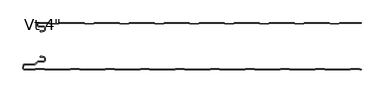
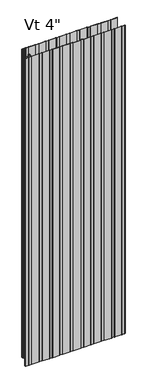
"""IFC4 building model written with IfcOpenShell, lengths in millimetres: plate geometry."""

from ifc_helpers import new_model, si_unit, point, frame, frame_2d, origin, origin_with_axes, place, context, project, spatial, polyline, circle_curve, trimmed, segment, composite_curve, outline, extrude, source, transform, mapped, element, save
from ifc_brep_helpers import plane_surface, cylinder_surface, revolved_surface, advanced_brep


def plate_0aca0093(model_context):
    return source(origin(), model_context, "Body", "SolidModel", [
        advanced_brep(
        [(-346.968691, -17.0015202, 2400.0), (-347.9686883, -18.0015234, 2400.0), (-346.968691, -19.0015147, 2400.0), (-342.9684874, -19.0015147, 2400.0), (-342.9684874, -18.0015202, 2400.0), (-340.2762776, -18.0015202, 2400.0), (-336.9762819, -14.7015245, 2400.0), (-336.9762819, -10.3015333, 2400.0), (-340.2762774, -7.0015378, 2400.0), (-350.6962563, -7.0015378, 2400.0), (-352.4662505, -5.2315436, 2400.0), (-352.4662505, -0.9999959, 2400.0), (-327.9659738, -0.9999959, 2400.0), (-326.5803312, -2.200235, 2400.0), (-307.2051649, -2.200235, 2400.0), (-305.819532, -1.0000043, 2400.0), (-251.7661166, -1.0000043, 2400.0), (-250.3804836, -2.200235, 2400.0), (-231.0053173, -2.200235, 2400.0), (-229.6196844, -1.0000043, 2400.0), (-175.566269, -1.0000043, 2400.0), (-174.180636, -2.200235, 2400.0), (-154.8054697, -2.200235, 2400.0), (-153.4198368, -1.0000043, 2400.0), (-99.3664214, -1.0000043, 2400.0), (-97.9807884, -2.200235, 2400.0), (-78.6056221, -2.200235, 2400.0), (-77.2199892, -1.0000043, 2400.0), (-23.1665738, -1.0000043, 2400.0), (-21.7809408, -2.200235, 2400.0), (-2.4057745, -2.200235, 2400.0), (-1.0201416, -1.0000043, 2400.0), (53.0332738, -1.0000043, 2400.0), (54.4189068, -2.200235, 2400.0), (73.7940731, -2.200235, 2400.0), (75.179706, -1.0000043, 2400.0), (129.2331214, -1.0000043, 2400.0), (130.6187544, -2.200235, 2400.0), (149.9939207, -2.200235, 2400.0), (151.3795536, -1.0000043, 2400.0), (205.432969, -1.0000043, 2400.0), (206.818602, -2.200235, 2400.0), (226.1937683, -2.200235, 2400.0), (227.5794012, -1.0000043, 2400.0), (281.6328166, -1.0000043, 2400.0), (283.0184496, -2.200235, 2400.0), (302.3936159, -2.200235, 2400.0), (303.7792488, -1.0000043, 2400.0), (350.4999998, -1.0000043, 2400.0), (350.4999998, -4.3e-06, 2400.0), (303.9284, -4.3e-06, 2400.0), (303.0117831, -0.3417928, 2400.0), (302.0207355, -1.200235, 2400.0), (283.39133, -1.200235, 2400.0), (282.4002824, -0.3417928, 2400.0), (281.4836655, -4.3e-06, 2400.0), (227.7285524, -4.3e-06, 2400.0), (226.8119355, -0.3417928, 2400.0), (225.8208879, -1.200235, 2400.0), (207.1914824, -1.200235, 2400.0), (206.2004348, -0.3417928, 2400.0), (205.2838179, -4.3e-06, 2400.0), (151.5287048, -4.3e-06, 2400.0), (150.6120879, -0.3417928, 2400.0), (149.6210403, -1.200235, 2400.0), (130.9916348, -1.200235, 2400.0), (130.0005872, -0.3417928, 2400.0), (129.0839703, -4.3e-06, 2400.0), (75.3288572, -4.3e-06, 2400.0), (74.4122403, -0.3417928, 2400.0), (73.4211927, -1.200235, 2400.0), (54.7917872, -1.200235, 2400.0), (53.8007396, -0.3417928, 2400.0), (52.8841227, -4.3e-06, 2400.0), (-0.8709904, -4.3e-06, 2400.0), (-1.7876073, -0.3417928, 2400.0), (-2.7786549, -1.200235, 2400.0), (-21.4080604, -1.200235, 2400.0), (-22.399108, -0.3417928, 2400.0), (-23.3157249, -4.3e-06, 2400.0), (-77.070838, -4.3e-06, 2400.0), (-77.9874549, -0.3417928, 2400.0), (-78.9785025, -1.200235, 2400.0), (-97.607908, -1.200235, 2400.0), (-98.5989556, -0.3417928, 2400.0), (-99.5155725, -4.3e-06, 2400.0), (-153.2706856, -4.3e-06, 2400.0), (-154.1873025, -0.3417928, 2400.0), (-155.1783501, -1.200235, 2400.0), (-173.8077556, -1.200235, 2400.0), (-174.7988032, -0.3417928, 2400.0), (-175.7154201, -4.3e-06, 2400.0), (-229.4705332, -4.3e-06, 2400.0), (-230.3871501, -0.3417928, 2400.0), (-231.3781977, -1.200235, 2400.0), (-250.0076032, -1.200235, 2400.0), (-250.9986508, -0.3417928, 2400.0), (-251.9152677, -4.3e-06, 2400.0), (-305.6703808, -4.3e-06, 2400.0), (-306.5869977, -0.3417928, 2400.0), (-307.5780453, -1.200235, 2400.0), (-326.2074508, -1.200235, 2400.0), (-327.1984984, -0.3417928, 2400.0), (-328.1152067, -4.3e-06, 2400.0), (-352.0662543, 4.1e-06, 2400.0), (-353.4662505, -1.3999921, 2400.0), (-353.4662505, -5.2315436, 2400.0), (-350.6962563, -8.0015378, 2400.0), (-340.2762774, -8.0015378, 2400.0), (-337.9762819, -10.3015333, 2400.0), (-337.9762819, -14.7015245, 2400.0), (-340.2762776, -17.0015202, 2400.0), (-346.968691, -17.0015202, 0.0), (-340.2762776, -17.0015202, 0.0), (-337.9762819, -14.7015245, 0.0), (-337.9762819, -10.3015333, 0.0), (-340.2762774, -8.0015378, 0.0), (-350.6962563, -8.0015378, 0.0), (-353.4662505, -5.2315436, 0.0), (-353.4662505, -1.3999921, 0.0), (-352.0662543, 4.1e-06, 0.0), (-328.1151153, 4.1e-06, 0.0), (-327.1984984, -0.3417928, 0.0), (-326.2074508, -1.200235, 0.0), (-307.5780453, -1.200235, 0.0), (-306.5869977, -0.3417928, 0.0), (-305.6703808, -4.3e-06, 0.0), (-251.9152677, -4.3e-06, 0.0), (-250.9986508, -0.3417928, 0.0), (-250.0076032, -1.200235, 0.0), (-231.3781977, -1.200235, 0.0), (-230.3871501, -0.3417928, 0.0), (-229.4705332, -4.3e-06, 0.0), (-175.7154201, -4.3e-06, 0.0), (-174.7988032, -0.3417928, 0.0), (-173.8077556, -1.200235, 0.0), (-155.1783501, -1.200235, 0.0), (-154.1873025, -0.3417928, 0.0), (-153.2706856, -4.3e-06, 0.0), (-99.5155725, -4.3e-06, 0.0), (-98.5989556, -0.3417928, 0.0), (-97.607908, -1.200235, 0.0), (-78.9785025, -1.200235, 0.0), (-77.9874549, -0.3417928, 0.0), (-77.070838, -4.3e-06, 0.0), (-23.3157249, -4.3e-06, 0.0), (-22.399108, -0.3417928, 0.0), (-21.4080604, -1.200235, 0.0), (-2.7786549, -1.200235, 0.0), (-1.7876073, -0.3417928, 0.0), (-0.8709904, -4.3e-06, 0.0), (52.8841227, -4.3e-06, 0.0), (53.8007396, -0.3417928, 0.0), (54.7917872, -1.200235, 0.0), (73.4211927, -1.200235, 0.0), (74.4122403, -0.3417928, 0.0), (75.3288572, -4.3e-06, 0.0), (129.0839703, -4.3e-06, 0.0), (130.0005872, -0.3417928, 0.0), (130.9916348, -1.200235, 0.0), (149.6210403, -1.200235, 0.0), (150.6120879, -0.3417928, 0.0), (151.5287048, -4.3e-06, 0.0), (205.2838179, -4.3e-06, 0.0), (206.2004348, -0.3417928, 0.0), (207.1914824, -1.200235, 0.0), (225.8208879, -1.200235, 0.0), (226.8119355, -0.3417928, 0.0), (227.7285524, -4.3e-06, 0.0), (281.4836655, -4.3e-06, 0.0), (282.4002824, -0.3417928, 0.0), (283.39133, -1.200235, 0.0), (302.0207355, -1.200235, 0.0), (303.0117831, -0.3417928, 0.0), (303.9284, -4.3e-06, 0.0), (350.4999998, -4.3e-06, 0.0), (350.4999998, -1.0000043, 0.0), (303.7792488, -1.0000043, 0.0), (302.3936159, -2.200235, 0.0), (283.0184496, -2.200235, 0.0), (281.6328166, -1.0000043, 0.0), (227.5794012, -1.0000043, 0.0), (226.1937683, -2.200235, 0.0), (206.818602, -2.200235, 0.0), (205.432969, -1.0000043, 0.0), (151.3795536, -1.0000043, 0.0), (149.9939207, -2.200235, 0.0), (130.6187544, -2.200235, 0.0), (129.2331214, -1.0000043, 0.0), (75.179706, -1.0000043, 0.0), (73.7940731, -2.200235, 0.0), (54.4189068, -2.200235, 0.0), (53.0332738, -1.0000043, 0.0), (-1.0201416, -1.0000043, 0.0), (-2.4057745, -2.200235, 0.0), (-21.7809408, -2.200235, 0.0), (-23.1665738, -1.0000043, 0.0), (-77.2199892, -1.0000043, 0.0), (-78.6056221, -2.200235, 0.0), (-97.9807884, -2.200235, 0.0), (-99.3664214, -1.0000043, 0.0), (-153.4198368, -1.0000043, 0.0), (-154.8054697, -2.200235, 0.0), (-174.180636, -2.200235, 0.0), (-175.566269, -1.0000043, 0.0), (-229.6196844, -1.0000043, 0.0), (-231.0053173, -2.200235, 0.0), (-250.3804836, -2.200235, 0.0), (-251.7661166, -1.0000043, 0.0), (-305.819532, -1.0000043, 0.0), (-307.2051649, -2.200235, 0.0), (-326.5803312, -2.200235, 0.0), (-327.9659738, -0.9999959, 0.0), (-352.4662505, -0.9999959, 0.0), (-352.4662505, -5.2315436, 0.0), (-350.6962563, -7.0015378, 0.0), (-340.2762774, -7.0015378, 0.0), (-336.9762819, -10.3015333, 0.0), (-336.9762819, -14.7015245, 0.0), (-340.2762776, -18.0015202, 0.0), (-342.9684874, -18.0015202, 0.0), (-342.9684874, -19.0015147, 0.0), (-346.968691, -19.0015147, 0.0), (-347.9686882, -18.0015235, 0.0)],
        [
            (0, 1, circle_curve(frame((-346.968691, -18.0015175, 2400.0), z_axis=(0.0, 0.0, 1.0), x_axis=(1.0, 0.0, 0.0)), 0.9999973)),
            (1, 2, circle_curve(frame((-346.968691, -18.0015175, 2400.0), z_axis=(0.0, 0.0, 1.0), x_axis=(1.0, 0.0, 0.0)), 0.9999972)),
            (2, 3),
            (3, 4),
            (4, 5),
            (5, 6, circle_curve(frame((-340.2762776, -14.7015245, 2400.0), z_axis=(0.0, 0.0, 1.0), x_axis=(1.0, 0.0, 0.0)), 3.2999957)),
            (6, 7),
            (7, 8, circle_curve(frame((-340.2762774, -10.3015333, 2400.0), z_axis=(0.0, 0.0, 1.0), x_axis=(1.0, 0.0, 0.0)), 3.2999955)),
            (8, 9),
            (9, 10, circle_curve(frame((-350.6962563, -5.2315436, 2400.0), z_axis=(0.0, 0.0, -1.0), x_axis=(1.0, 0.0, 0.0)), 1.7699942)),
            (10, 11),
            (11, 12),
            (12, 13),
            (13, 14),
            (14, 15),
            (15, 16),
            (16, 17),
            (17, 18),
            (18, 19),
            (19, 20),
            (20, 21),
            (21, 22),
            (22, 23),
            (23, 24),
            (24, 25),
            (25, 26),
            (26, 27),
            (27, 28),
            (28, 29),
            (29, 30),
            (30, 31),
            (31, 32),
            (32, 33),
            (33, 34),
            (34, 35),
            (35, 36),
            (36, 37),
            (37, 38),
            (38, 39),
            (39, 40),
            (40, 41),
            (41, 42),
            (42, 43),
            (43, 44),
            (44, 45),
            (45, 46),
            (46, 47),
            (47, 48),
            (48, 49),
            (49, 50),
            (50, 51, circle_curve(frame((303.9284, -1.4000015, 2400.0), z_axis=(0.0, 0.0, 1.0), x_axis=(1.0, 0.0, 0.0)), 1.3999972)),
            (51, 52),
            (52, 53),
            (53, 54),
            (54, 55, circle_curve(frame((281.4836655, -1.4000015, 2400.0), z_axis=(0.0, 0.0, 1.0), x_axis=(1.0, 0.0, 0.0)), 1.3999972)),
            (55, 56),
            (56, 57, circle_curve(frame((227.7285524, -1.4000015, 2400.0), z_axis=(0.0, 0.0, 1.0), x_axis=(1.0, 0.0, 0.0)), 1.3999972)),
            (57, 58),
            (58, 59),
            (59, 60),
            (60, 61, circle_curve(frame((205.2838179, -1.4000015, 2400.0), z_axis=(0.0, 0.0, 1.0), x_axis=(1.0, 0.0, 0.0)), 1.3999972)),
            (61, 62),
            (62, 63, circle_curve(frame((151.5287048, -1.4000015, 2400.0), z_axis=(0.0, 0.0, 1.0), x_axis=(1.0, 0.0, 0.0)), 1.3999972)),
            (63, 64),
            (64, 65),
            (65, 66),
            (66, 67, circle_curve(frame((129.0839703, -1.4000015, 2400.0), z_axis=(0.0, 0.0, 1.0), x_axis=(1.0, 0.0, 0.0)), 1.3999972)),
            (67, 68),
            (68, 69, circle_curve(frame((75.3288572, -1.4000015, 2400.0), z_axis=(0.0, 0.0, 1.0), x_axis=(1.0, 0.0, 0.0)), 1.3999972)),
            (69, 70),
            (70, 71),
            (71, 72),
            (72, 73, circle_curve(frame((52.8841227, -1.4000015, 2400.0), z_axis=(0.0, 0.0, 1.0), x_axis=(1.0, 0.0, 0.0)), 1.3999972)),
            (73, 74),
            (74, 75, circle_curve(frame((-0.8709904, -1.4000015, 2400.0), z_axis=(0.0, 0.0, 1.0), x_axis=(1.0, 0.0, 0.0)), 1.3999972)),
            (75, 76),
            (76, 77),
            (77, 78),
            (78, 79, circle_curve(frame((-23.3157249, -1.4000015, 2400.0), z_axis=(0.0, 0.0, 1.0), x_axis=(1.0, 0.0, 0.0)), 1.3999972)),
            (79, 80),
            (80, 81, circle_curve(frame((-77.070838, -1.4000015, 2400.0), z_axis=(0.0, 0.0, 1.0), x_axis=(1.0, 0.0, 0.0)), 1.3999972)),
            (81, 82),
            (82, 83),
            (83, 84),
            (84, 85, circle_curve(frame((-99.5155725, -1.4000015, 2400.0), z_axis=(0.0, 0.0, 1.0), x_axis=(1.0, 0.0, 0.0)), 1.3999972)),
            (85, 86),
            (86, 87, circle_curve(frame((-153.2706856, -1.4000015, 2400.0), z_axis=(0.0, 0.0, 1.0), x_axis=(1.0, 0.0, 0.0)), 1.3999972)),
            (87, 88),
            (88, 89),
            (89, 90),
            (90, 91, circle_curve(frame((-175.7154201, -1.4000015, 2400.0), z_axis=(0.0, 0.0, 1.0), x_axis=(1.0, 0.0, 0.0)), 1.3999972)),
            (91, 92),
            (92, 93, circle_curve(frame((-229.4705332, -1.4000015, 2400.0), z_axis=(0.0, 0.0, 1.0), x_axis=(1.0, 0.0, 0.0)), 1.3999972)),
            (93, 94),
            (94, 95),
            (95, 96),
            (96, 97, circle_curve(frame((-251.9152677, -1.4000015, 2400.0), z_axis=(0.0, 0.0, 1.0), x_axis=(1.0, 0.0, 0.0)), 1.3999972)),
            (97, 98),
            (98, 99, circle_curve(frame((-305.6703808, -1.4000015, 2400.0), z_axis=(0.0, 0.0, 1.0), x_axis=(1.0, 0.0, 0.0)), 1.3999972)),
            (99, 100),
            (100, 101),
            (101, 102),
            (102, 103, circle_curve(frame((-328.1151153, -1.4000015, 2400.0), z_axis=(0.0, 0.0, 1.0), x_axis=(1.0, 0.0, 0.0)), 1.3999972)),
            (103, 104),
            (104, 105, circle_curve(frame((-352.0662543, -1.3999921, 2400.0), z_axis=(0.0, 0.0, 1.0), x_axis=(1.0, 0.0, 0.0)), 1.3999962)),
            (105, 106),
            (106, 107, circle_curve(frame((-350.6962563, -5.2315436, 2400.0), z_axis=(0.0, 0.0, 1.0), x_axis=(1.0, 0.0, 0.0)), 2.7699942)),
            (107, 108),
            (108, 109, circle_curve(frame((-340.2762774, -10.3015333, 2400.0), z_axis=(0.0, 0.0, -1.0), x_axis=(1.0, 0.0, 0.0)), 2.2999955)),
            (109, 110),
            (110, 111, circle_curve(frame((-340.2762776, -14.7015245, 2400.0), z_axis=(0.0, 0.0, -1.0), x_axis=(1.0, 0.0, 0.0)), 2.2999957)),
            (111, 0),
            (112, 113),
            (113, 114, circle_curve(frame((-340.2762776, -14.7015245, 0.0), z_axis=(0.0, 0.0, 1.0), x_axis=(1.0, 0.0, 0.0)), 2.2999957)),
            (114, 115),
            (115, 116, circle_curve(frame((-340.2762774, -10.3015333, 0.0), z_axis=(0.0, 0.0, 1.0), x_axis=(1.0, 0.0, 0.0)), 2.2999955)),
            (116, 117),
            (117, 118, circle_curve(frame((-350.6962563, -5.2315436, 0.0), z_axis=(0.0, 0.0, -1.0), x_axis=(1.0, 0.0, 0.0)), 2.7699942)),
            (118, 119),
            (119, 120, circle_curve(frame((-352.0662543, -1.3999921, 0.0), z_axis=(0.0, 0.0, -1.0), x_axis=(1.0, 0.0, 0.0)), 1.3999962)),
            (120, 121),
            (121, 122, circle_curve(frame((-328.1151153, -1.4000015, 0.0), z_axis=(0.0, 0.0, -1.0), x_axis=(1.0, 0.0, 0.0)), 1.3999972)),
            (122, 123),
            (123, 124),
            (124, 125),
            (125, 126, circle_curve(frame((-305.6703808, -1.4000015, 0.0), z_axis=(0.0, 0.0, -1.0), x_axis=(1.0, 0.0, 0.0)), 1.3999972)),
            (126, 127),
            (127, 128, circle_curve(frame((-251.9152677, -1.4000015, 0.0), z_axis=(0.0, 0.0, -1.0), x_axis=(1.0, 0.0, 0.0)), 1.3999972)),
            (128, 129),
            (129, 130),
            (130, 131),
            (131, 132, circle_curve(frame((-229.4705332, -1.4000015, 0.0), z_axis=(0.0, 0.0, -1.0), x_axis=(1.0, 0.0, 0.0)), 1.3999972)),
            (132, 133),
            (133, 134, circle_curve(frame((-175.7154201, -1.4000015, 0.0), z_axis=(0.0, 0.0, -1.0), x_axis=(1.0, 0.0, 0.0)), 1.3999972)),
            (134, 135),
            (135, 136),
            (136, 137),
            (137, 138, circle_curve(frame((-153.2706856, -1.4000015, 0.0), z_axis=(0.0, 0.0, -1.0), x_axis=(1.0, 0.0, 0.0)), 1.3999972)),
            (138, 139),
            (139, 140, circle_curve(frame((-99.5155725, -1.4000015, 0.0), z_axis=(0.0, 0.0, -1.0), x_axis=(1.0, 0.0, 0.0)), 1.3999972)),
            (140, 141),
            (141, 142),
            (142, 143),
            (143, 144, circle_curve(frame((-77.070838, -1.4000015, 0.0), z_axis=(0.0, 0.0, -1.0), x_axis=(1.0, 0.0, 0.0)), 1.3999972)),
            (144, 145),
            (145, 146, circle_curve(frame((-23.3157249, -1.4000015, 0.0), z_axis=(0.0, 0.0, -1.0), x_axis=(1.0, 0.0, 0.0)), 1.3999972)),
            (146, 147),
            (147, 148),
            (148, 149),
            (149, 150, circle_curve(frame((-0.8709904, -1.4000015, 0.0), z_axis=(0.0, 0.0, -1.0), x_axis=(1.0, 0.0, 0.0)), 1.3999972)),
            (150, 151),
            (151, 152, circle_curve(frame((52.8841227, -1.4000015, 0.0), z_axis=(0.0, 0.0, -1.0), x_axis=(1.0, 0.0, 0.0)), 1.3999972)),
            (152, 153),
            (153, 154),
            (154, 155),
            (155, 156, circle_curve(frame((75.3288572, -1.4000015, 0.0), z_axis=(0.0, 0.0, -1.0), x_axis=(1.0, 0.0, 0.0)), 1.3999972)),
            (156, 157),
            (157, 158, circle_curve(frame((129.0839703, -1.4000015, 0.0), z_axis=(0.0, 0.0, -1.0), x_axis=(1.0, 0.0, 0.0)), 1.3999972)),
            (158, 159),
            (159, 160),
            (160, 161),
            (161, 162, circle_curve(frame((151.5287048, -1.4000015, 0.0), z_axis=(0.0, 0.0, -1.0), x_axis=(1.0, 0.0, 0.0)), 1.3999972)),
            (162, 163),
            (163, 164, circle_curve(frame((205.2838179, -1.4000015, 0.0), z_axis=(0.0, 0.0, -1.0), x_axis=(1.0, 0.0, 0.0)), 1.3999972)),
            (164, 165),
            (165, 166),
            (166, 167),
            (167, 168, circle_curve(frame((227.7285524, -1.4000015, 0.0), z_axis=(0.0, 0.0, -1.0), x_axis=(1.0, 0.0, 0.0)), 1.3999972)),
            (168, 169),
            (169, 170, circle_curve(frame((281.4836655, -1.4000015, 0.0), z_axis=(0.0, 0.0, -1.0), x_axis=(1.0, 0.0, 0.0)), 1.3999972)),
            (170, 171),
            (171, 172),
            (172, 173),
            (173, 174, circle_curve(frame((303.9284, -1.4000015, 0.0), z_axis=(0.0, 0.0, -1.0), x_axis=(1.0, 0.0, 0.0)), 1.3999972)),
            (174, 175),
            (175, 176),
            (176, 177),
            (177, 178),
            (178, 179),
            (179, 180),
            (180, 181),
            (181, 182),
            (182, 183),
            (183, 184),
            (184, 185),
            (185, 186),
            (186, 187),
            (187, 188),
            (188, 189),
            (189, 190),
            (190, 191),
            (191, 192),
            (192, 193),
            (193, 194),
            (194, 195),
            (195, 196),
            (196, 197),
            (197, 198),
            (198, 199),
            (199, 200),
            (200, 201),
            (201, 202),
            (202, 203),
            (203, 204),
            (204, 205),
            (205, 206),
            (206, 207),
            (207, 208),
            (208, 209),
            (209, 210),
            (210, 211),
            (211, 212),
            (212, 213),
            (213, 214),
            (214, 215, circle_curve(frame((-350.6962563, -5.2315436, 0.0), z_axis=(0.0, 0.0, 1.0), x_axis=(1.0, 0.0, 0.0)), 1.7699942)),
            (215, 216),
            (216, 217, circle_curve(frame((-340.2762774, -10.3015333, 0.0), z_axis=(0.0, 0.0, -1.0), x_axis=(1.0, 0.0, 0.0)), 3.2999955)),
            (217, 218),
            (218, 219, circle_curve(frame((-340.2762776, -14.7015245, 0.0), z_axis=(0.0, 0.0, -1.0), x_axis=(1.0, 0.0, 0.0)), 3.2999957)),
            (219, 220),
            (220, 221),
            (221, 222),
            (222, 223, circle_curve(frame((-346.968691, -18.0015175, 0.0), z_axis=(0.0, 0.0, -1.0), x_axis=(1.0, 0.0, 0.0)), 0.9999972)),
            (223, 112, circle_curve(frame((-346.968691, -18.0015175, 0.0), z_axis=(0.0, 0.0, -1.0), x_axis=(1.0, 0.0, 0.0)), 0.9999973)),
            (111, 113),
            (112, 0),
            (110, 114),
            (109, 115),
            (108, 116),
            (107, 117),
            (106, 118),
            (105, 119),
            (104, 120),
            (103, 121),
            (102, 122),
            (101, 123),
            (100, 124),
            (99, 125),
            (98, 126),
            (97, 127),
            (96, 128),
            (95, 129),
            (94, 130),
            (93, 131),
            (92, 132),
            (91, 133),
            (90, 134),
            (89, 135),
            (88, 136),
            (87, 137),
            (86, 138),
            (85, 139),
            (84, 140),
            (83, 141),
            (82, 142),
            (81, 143),
            (80, 144),
            (79, 145),
            (78, 146),
            (77, 147),
            (76, 148),
            (75, 149),
            (74, 150),
            (73, 151),
            (72, 152),
            (71, 153),
            (70, 154),
            (69, 155),
            (68, 156),
            (67, 157),
            (66, 158),
            (65, 159),
            (64, 160),
            (63, 161),
            (62, 162),
            (61, 163),
            (39, 185),
            (184, 40),
            (38, 186),
            (37, 187),
            (36, 188),
            (35, 189),
            (34, 190),
            (33, 191),
            (32, 192),
            (31, 193),
            (30, 194),
            (29, 195),
            (28, 196),
            (27, 197),
            (26, 198),
            (25, 199),
            (24, 200),
            (23, 201),
            (22, 202),
            (21, 203),
            (20, 204),
            (19, 205),
            (18, 206),
            (17, 207),
            (16, 208),
            (15, 209),
            (14, 210),
            (13, 211),
            (12, 212),
            (11, 213),
            (10, 214),
            (9, 215),
            (8, 216),
            (7, 217),
            (6, 218),
            (5, 219),
            (4, 220),
            (3, 221),
            (2, 222),
            (1, 223),
            (48, 176),
            (175, 49),
            (60, 164),
            (59, 165),
            (58, 166),
            (57, 167),
            (56, 168),
            (55, 169),
            (54, 170),
            (53, 171),
            (52, 172),
            (51, 173),
            (50, 174),
            (47, 177),
            (46, 178),
            (45, 179),
            (44, 180),
            (43, 181),
            (42, 182),
            (41, 183),
        ],
        [
            plane_surface(frame((32.0000002, -4.3e-06, 2400.0), z_axis=(0.0, 0.0, 1.0), x_axis=(0.0, 1.0, 0.0))),
            plane_surface(frame((32.0000002, -4.3e-06, 0.0), z_axis=(0.0, 0.0, -1.0), x_axis=(0.0, 1.0, 0.0))),
            plane_surface(frame((-346.968691, -17.0015202, 2400.0), z_axis=(0.0, 1.0, 0.0), x_axis=(0.0, 0.0, -1.0))),
            revolved_surface(polyline([(-337.9762819, -14.7015245, 0.0), (-337.9762819, -14.7015245, 2400.0)]), (-340.2762776, -14.7015245, 2400.0), (0.0, 0.0, -1.0)),
            plane_surface(frame((-337.9762819, -14.7015245, 2400.0), z_axis=(-1.0, 0.0, 0.0), x_axis=(0.0, 0.0, -1.0))),
            revolved_surface(polyline([(-337.9762819, -10.3015333, 0.0), (-337.9762819, -10.3015333, 2400.0)]), (-340.2762774, -10.3015333, 2400.0), (0.0, 0.0, -1.0)),
            plane_surface(frame((-340.2762774, -8.0015378, 2400.0), z_axis=(0.0, -1.0, 0.0), x_axis=(0.0, 0.0, -1.0))),
            cylinder_surface(frame((-350.6962563, -5.2315436, 2400.0), z_axis=(0.0, 0.0, 1.0), x_axis=(1.0, 0.0, 0.0)), 2.7699942),
            plane_surface(frame((-353.4662505, -5.2315436, 2400.0), z_axis=(-1.0, 0.0, 0.0), x_axis=(0.0, 0.0, -1.0))),
            cylinder_surface(frame((-352.0662543, -1.3999921, 2400.0), z_axis=(0.0, 0.0, 1.0), x_axis=(1.0, 0.0, 0.0)), 1.3999962),
            plane_surface(frame((-352.0662543, 4.1e-06, 2400.0), z_axis=(0.0, 1.0, 0.0), x_axis=(0.0, 0.0, -1.0))),
            cylinder_surface(frame((-328.1151153, -1.4000015, 2400.0), z_axis=(0.0, 0.0, 1.0), x_axis=(1.0, 0.0, 0.0)), 1.3999972),
            plane_surface(frame((-327.1984984, -0.3417928, 2400.0), z_axis=(0.6547276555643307, 0.7558648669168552, 0.0), x_axis=(0.0, 0.0, -1.0))),
            plane_surface(frame((-316.8927481, -1.200235, 2400.0), z_axis=(0.0, 1.0, 0.0), x_axis=(0.0, 0.0, -1.0))),
            plane_surface(frame((-307.5780453, -1.200235, 2400.0), z_axis=(-0.6547276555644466, 0.7558648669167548, 0.0), x_axis=(0.0, 0.0, -1.0))),
            cylinder_surface(frame((-305.6703808, -1.4000015, 2400.0), z_axis=(0.0, 0.0, 1.0), x_axis=(1.0, 0.0, 0.0)), 1.3999972),
            plane_surface(frame((-305.6703808, -4.3e-06, 2400.0), z_axis=(0.0, 1.0, 0.0), x_axis=(0.0, 0.0, -1.0))),
            cylinder_surface(frame((-251.9152677, -1.4000015, 2400.0), z_axis=(0.0, 0.0, 1.0), x_axis=(1.0, 0.0, 0.0)), 1.3999972),
            plane_surface(frame((-250.9986508, -0.3417928, 2400.0), z_axis=(0.6547276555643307, 0.7558648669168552, 0.0), x_axis=(0.0, 0.0, -1.0))),
            plane_surface(frame((-240.6929005, -1.200235, 2400.0), z_axis=(0.0, 1.0, 0.0), x_axis=(0.0, 0.0, -1.0))),
            plane_surface(frame((-231.3781977, -1.200235, 2400.0), z_axis=(-0.6547276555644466, 0.7558648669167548, 0.0), x_axis=(0.0, 0.0, -1.0))),
            cylinder_surface(frame((-229.4705332, -1.4000015, 2400.0), z_axis=(0.0, 0.0, 1.0), x_axis=(1.0, 0.0, 0.0)), 1.3999972),
            plane_surface(frame((-229.4705332, -4.3e-06, 2400.0), z_axis=(0.0, 1.0, 0.0), x_axis=(0.0, 0.0, -1.0))),
            cylinder_surface(frame((-175.7154201, -1.4000015, 2400.0), z_axis=(0.0, 0.0, 1.0), x_axis=(1.0, 0.0, 0.0)), 1.3999972),
            plane_surface(frame((-174.7988032, -0.3417928, 2400.0), z_axis=(0.6547276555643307, 0.7558648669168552, 0.0), x_axis=(0.0, 0.0, -1.0))),
            plane_surface(frame((-164.4930529, -1.200235, 2400.0), z_axis=(0.0, 1.0, 0.0), x_axis=(0.0, 0.0, -1.0))),
            plane_surface(frame((-155.1783501, -1.200235, 2400.0), z_axis=(-0.6547276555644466, 0.7558648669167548, 0.0), x_axis=(0.0, 0.0, -1.0))),
            cylinder_surface(frame((-153.2706856, -1.4000015, 2400.0), z_axis=(0.0, 0.0, 1.0), x_axis=(1.0, 0.0, 0.0)), 1.3999972),
            plane_surface(frame((-153.2706856, -4.3e-06, 2400.0), z_axis=(0.0, 1.0, 0.0), x_axis=(0.0, 0.0, -1.0))),
            cylinder_surface(frame((-99.5155725, -1.4000015, 2400.0), z_axis=(0.0, 0.0, 1.0), x_axis=(1.0, 0.0, 0.0)), 1.3999972),
            plane_surface(frame((-98.5989556, -0.3417928, 2400.0), z_axis=(0.6547276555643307, 0.7558648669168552, 0.0), x_axis=(0.0, 0.0, -1.0))),
            plane_surface(frame((-88.2932053, -1.200235, 2400.0), z_axis=(0.0, 1.0, 0.0), x_axis=(0.0, 0.0, -1.0))),
            plane_surface(frame((-78.9785025, -1.200235, 2400.0), z_axis=(-0.6547276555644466, 0.7558648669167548, 0.0), x_axis=(0.0, 0.0, -1.0))),
            cylinder_surface(frame((-77.070838, -1.4000015, 2400.0), z_axis=(0.0, 0.0, 1.0), x_axis=(1.0, 0.0, 0.0)), 1.3999972),
            plane_surface(frame((-77.070838, -4.3e-06, 2400.0), z_axis=(0.0, 1.0, 0.0), x_axis=(0.0, 0.0, -1.0))),
            cylinder_surface(frame((-23.3157249, -1.4000015, 2400.0), z_axis=(0.0, 0.0, 1.0), x_axis=(1.0, 0.0, 0.0)), 1.3999972),
            plane_surface(frame((-22.399108, -0.3417928, 2400.0), z_axis=(0.6547276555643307, 0.7558648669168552, 0.0), x_axis=(0.0, 0.0, -1.0))),
            plane_surface(frame((-12.0933577, -1.200235, 2400.0), z_axis=(0.0, 1.0, 0.0), x_axis=(0.0, 0.0, -1.0))),
            plane_surface(frame((-2.7786549, -1.200235, 2400.0), z_axis=(-0.6547276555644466, 0.7558648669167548, 0.0), x_axis=(0.0, 0.0, -1.0))),
            cylinder_surface(frame((-0.8709904, -1.4000015, 2400.0), z_axis=(0.0, 0.0, 1.0), x_axis=(1.0, 0.0, 0.0)), 1.3999972),
            plane_surface(frame((-0.8709904, -4.3e-06, 2400.0), z_axis=(0.0, 1.0, 0.0), x_axis=(0.0, 0.0, -1.0))),
            cylinder_surface(frame((52.8841227, -1.4000015, 2400.0), z_axis=(0.0, 0.0, 1.0), x_axis=(1.0, 0.0, 0.0)), 1.3999972),
            plane_surface(frame((53.8007396, -0.3417928, 2400.0), z_axis=(0.6547276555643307, 0.7558648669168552, 0.0), x_axis=(0.0, 0.0, -1.0))),
            plane_surface(frame((64.1064899, -1.200235, 2400.0), z_axis=(0.0, 1.0, 0.0), x_axis=(0.0, 0.0, -1.0))),
            plane_surface(frame((73.4211927, -1.200235, 2400.0), z_axis=(-0.6547276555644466, 0.7558648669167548, 0.0), x_axis=(0.0, 0.0, -1.0))),
            cylinder_surface(frame((75.3288572, -1.4000015, 2400.0), z_axis=(0.0, 0.0, 1.0), x_axis=(1.0, 0.0, 0.0)), 1.3999972),
            plane_surface(frame((75.3288572, -4.3e-06, 2400.0), z_axis=(0.0, 1.0, 0.0), x_axis=(0.0, 0.0, -1.0))),
            cylinder_surface(frame((129.0839703, -1.4000015, 2400.0), z_axis=(0.0, 0.0, 1.0), x_axis=(1.0, 0.0, 0.0)), 1.3999972),
            plane_surface(frame((130.0005872, -0.3417928, 2400.0), z_axis=(0.6547276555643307, 0.7558648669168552, 0.0), x_axis=(0.0, 0.0, -1.0))),
            plane_surface(frame((140.3063375, -1.200235, 2400.0), z_axis=(0.0, 1.0, 0.0), x_axis=(0.0, 0.0, -1.0))),
            plane_surface(frame((149.6210403, -1.200235, 2400.0), z_axis=(-0.6547276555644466, 0.7558648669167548, 0.0), x_axis=(0.0, 0.0, -1.0))),
            cylinder_surface(frame((151.5287048, -1.4000015, 2400.0), z_axis=(0.0, 0.0, 1.0), x_axis=(1.0, 0.0, 0.0)), 1.3999972),
            plane_surface(frame((151.5287048, -4.3e-06, 2400.0), z_axis=(0.0, 1.0, 0.0), x_axis=(0.0, 0.0, -1.0))),
            plane_surface(frame((205.432969, -1.0000043, 2400.0), z_axis=(0.0, -1.0, 0.0), x_axis=(0.0, 0.0, -1.0))),
            plane_surface(frame((151.3795536, -1.0000043, 2400.0), z_axis=(0.6547276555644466, -0.7558648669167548, 0.0), x_axis=(0.0, 0.0, -1.0))),
            plane_surface(frame((149.9939207, -2.200235, 2400.0), z_axis=(0.0, -1.0, 0.0), x_axis=(0.0, 0.0, -1.0))),
            plane_surface(frame((130.6187544, -2.200235, 2400.0), z_axis=(-0.6547276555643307, -0.7558648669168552, 0.0), x_axis=(0.0, 0.0, -1.0))),
            plane_surface(frame((129.2331214, -1.0000043, 2400.0), z_axis=(0.0, -1.0, 0.0), x_axis=(0.0, 0.0, -1.0))),
            plane_surface(frame((75.179706, -1.0000043, 2400.0), z_axis=(0.6547276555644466, -0.7558648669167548, 0.0), x_axis=(0.0, 0.0, -1.0))),
            plane_surface(frame((73.7940731, -2.200235, 2400.0), z_axis=(0.0, -1.0, 0.0), x_axis=(0.0, 0.0, -1.0))),
            plane_surface(frame((54.4189068, -2.200235, 2400.0), z_axis=(-0.6547276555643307, -0.7558648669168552, 0.0), x_axis=(0.0, 0.0, -1.0))),
            plane_surface(frame((53.0332738, -1.0000043, 2400.0), z_axis=(0.0, -1.0, 0.0), x_axis=(0.0, 0.0, -1.0))),
            plane_surface(frame((-1.0201416, -1.0000043, 2400.0), z_axis=(0.6547276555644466, -0.7558648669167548, 0.0), x_axis=(0.0, 0.0, -1.0))),
            plane_surface(frame((-2.4057745, -2.200235, 2400.0), z_axis=(0.0, -1.0, 0.0), x_axis=(0.0, 0.0, -1.0))),
            plane_surface(frame((-21.7809408, -2.200235, 2400.0), z_axis=(-0.6547276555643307, -0.7558648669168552, 0.0), x_axis=(0.0, 0.0, -1.0))),
            plane_surface(frame((-23.1665738, -1.0000043, 2400.0), z_axis=(0.0, -1.0, 0.0), x_axis=(0.0, 0.0, -1.0))),
            plane_surface(frame((-77.2199892, -1.0000043, 2400.0), z_axis=(0.6547276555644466, -0.7558648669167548, 0.0), x_axis=(0.0, 0.0, -1.0))),
            plane_surface(frame((-78.6056221, -2.200235, 2400.0), z_axis=(0.0, -1.0, 0.0), x_axis=(0.0, 0.0, -1.0))),
            plane_surface(frame((-97.9807884, -2.200235, 2400.0), z_axis=(-0.6547276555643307, -0.7558648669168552, 0.0), x_axis=(0.0, 0.0, -1.0))),
            plane_surface(frame((-99.3664214, -1.0000043, 2400.0), z_axis=(0.0, -1.0, 0.0), x_axis=(0.0, 0.0, -1.0))),
            plane_surface(frame((-153.4198368, -1.0000043, 2400.0), z_axis=(0.6547276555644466, -0.7558648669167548, 0.0), x_axis=(0.0, 0.0, -1.0))),
            plane_surface(frame((-154.8054697, -2.200235, 2400.0), z_axis=(0.0, -1.0, 0.0), x_axis=(0.0, 0.0, -1.0))),
            plane_surface(frame((-174.180636, -2.200235, 2400.0), z_axis=(-0.6547276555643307, -0.7558648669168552, 0.0), x_axis=(0.0, 0.0, -1.0))),
            plane_surface(frame((-175.566269, -1.0000043, 2400.0), z_axis=(0.0, -1.0, 0.0), x_axis=(0.0, 0.0, -1.0))),
            plane_surface(frame((-229.6196844, -1.0000043, 2400.0), z_axis=(0.6547276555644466, -0.7558648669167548, 0.0), x_axis=(0.0, 0.0, -1.0))),
            plane_surface(frame((-231.0053173, -2.200235, 2400.0), z_axis=(0.0, -1.0, 0.0), x_axis=(0.0, 0.0, -1.0))),
            plane_surface(frame((-250.3804836, -2.200235, 2400.0), z_axis=(-0.6547276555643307, -0.7558648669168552, 0.0), x_axis=(0.0, 0.0, -1.0))),
            plane_surface(frame((-251.7661166, -1.0000043, 2400.0), z_axis=(0.0, -1.0, 0.0), x_axis=(0.0, 0.0, -1.0))),
            plane_surface(frame((-305.819532, -1.0000043, 2400.0), z_axis=(0.6547276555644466, -0.7558648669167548, 0.0), x_axis=(0.0, 0.0, -1.0))),
            plane_surface(frame((-307.2051649, -2.200235, 2400.0), z_axis=(0.0, -1.0, 0.0), x_axis=(0.0, 0.0, -1.0))),
            plane_surface(frame((-326.5803312, -2.200235, 2400.0), z_axis=(-0.6547276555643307, -0.7558648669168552, 0.0), x_axis=(0.0, 0.0, -1.0))),
            plane_surface(frame((-327.9659738, -0.9999959, 2400.0), z_axis=(0.0, -1.0, 0.0), x_axis=(0.0, 0.0, -1.0))),
            plane_surface(frame((-352.4662505, -0.9999959, 2400.0), z_axis=(1.0, 0.0, 0.0), x_axis=(0.0, 0.0, -1.0))),
            revolved_surface(polyline([(-348.92626210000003, -5.2315436, 0.0), (-348.92626210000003, -5.2315436, 2400.0)]), (-350.6962563, -5.2315436, 2400.0), (0.0, 0.0, -1.0)),
            plane_surface(frame((-350.6962563, -7.0015378, 2400.0), z_axis=(0.0, 1.0, 0.0), x_axis=(0.0, 0.0, -1.0))),
            cylinder_surface(frame((-340.2762774, -10.3015333, 2400.0), z_axis=(0.0, 0.0, 1.0), x_axis=(1.0, 0.0, 0.0)), 3.2999955),
            plane_surface(frame((-336.9762819, -10.3015333, 2400.0), z_axis=(1.0, 0.0, 0.0), x_axis=(0.0, 0.0, -1.0))),
            cylinder_surface(frame((-340.2762776, -14.7015245, 2400.0), z_axis=(0.0, 0.0, 1.0), x_axis=(1.0, 0.0, 0.0)), 3.2999957),
            plane_surface(frame((-340.2762776, -18.0015202, 2400.0), z_axis=(0.0, -1.0, 0.0), x_axis=(0.0, 0.0, -1.0))),
            plane_surface(frame((-342.9684874, -18.0015202, 2400.0), z_axis=(1.0, 0.0, 0.0), x_axis=(0.0, 0.0, -1.0))),
            plane_surface(frame((-342.9684874, -19.0015147, 2400.0), z_axis=(0.0, -1.0, 0.0), x_axis=(0.0, 0.0, -1.0))),
            cylinder_surface(frame((-346.968691, -18.0015175, 2400.0), z_axis=(0.0, 0.0, 1.0), x_axis=(1.0, 0.0, 0.0)), 0.9999972),
            cylinder_surface(frame((-346.968691, -18.0015175, 2400.0), z_axis=(0.0, 0.0, 1.0), x_axis=(1.0, 0.0, 0.0)), 0.9999973),
            plane_surface(frame((350.4999998, -111.6000043, 2400.0), z_axis=(1.0, 0.0, 0.0), x_axis=(0.0, 0.0, -1.0))),
            cylinder_surface(frame((205.2838179, -1.4000015, 2400.0), z_axis=(0.0, 0.0, 1.0), x_axis=(1.0, 0.0, 0.0)), 1.3999972),
            plane_surface(frame((206.2004348, -0.3417928, 2400.0), z_axis=(0.6547276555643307, 0.7558648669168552, 0.0), x_axis=(0.0, 0.0, -1.0))),
            plane_surface(frame((216.5061851, -1.200235, 2400.0), z_axis=(0.0, 1.0, 0.0), x_axis=(0.0, 0.0, -1.0))),
            plane_surface(frame((225.8208879, -1.200235, 2400.0), z_axis=(-0.6547276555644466, 0.7558648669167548, 0.0), x_axis=(0.0, 0.0, -1.0))),
            cylinder_surface(frame((227.7285524, -1.4000015, 2400.0), z_axis=(0.0, 0.0, 1.0), x_axis=(1.0, 0.0, 0.0)), 1.3999972),
            plane_surface(frame((227.7285524, -4.3e-06, 2400.0), z_axis=(0.0, 1.0, 0.0), x_axis=(0.0, 0.0, -1.0))),
            cylinder_surface(frame((281.4836655, -1.4000015, 2400.0), z_axis=(0.0, 0.0, 1.0), x_axis=(1.0, 0.0, 0.0)), 1.3999972),
            plane_surface(frame((282.4002824, -0.3417928, 2400.0), z_axis=(0.6547276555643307, 0.7558648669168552, 0.0), x_axis=(0.0, 0.0, -1.0))),
            plane_surface(frame((292.7060327, -1.200235, 2400.0), z_axis=(0.0, 1.0, 0.0), x_axis=(0.0, 0.0, -1.0))),
            plane_surface(frame((302.0207355, -1.200235, 2400.0), z_axis=(-0.6547276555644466, 0.7558648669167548, 0.0), x_axis=(0.0, 0.0, -1.0))),
            cylinder_surface(frame((303.9284, -1.4000015, 2400.0), z_axis=(0.0, 0.0, 1.0), x_axis=(1.0, 0.0, 0.0)), 1.3999972),
            plane_surface(frame((303.9284, -4.3e-06, 2400.0), z_axis=(0.0, 1.0, 0.0), x_axis=(0.0, 0.0, -1.0))),
            plane_surface(frame((357.8326642, -1.0000043, 2400.0), z_axis=(0.0, -1.0, 0.0), x_axis=(0.0, 0.0, -1.0))),
            plane_surface(frame((303.7792488, -1.0000043, 2400.0), z_axis=(0.6547276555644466, -0.7558648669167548, 0.0), x_axis=(0.0, 0.0, -1.0))),
            plane_surface(frame((302.3936159, -2.200235, 2400.0), z_axis=(0.0, -1.0, 0.0), x_axis=(0.0, 0.0, -1.0))),
            plane_surface(frame((283.0184496, -2.200235, 2400.0), z_axis=(-0.6547276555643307, -0.7558648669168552, 0.0), x_axis=(0.0, 0.0, -1.0))),
            plane_surface(frame((281.6328166, -1.0000043, 2400.0), z_axis=(0.0, -1.0, 0.0), x_axis=(0.0, 0.0, -1.0))),
            plane_surface(frame((227.5794012, -1.0000043, 2400.0), z_axis=(0.6547276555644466, -0.7558648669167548, 0.0), x_axis=(0.0, 0.0, -1.0))),
            plane_surface(frame((226.1937683, -2.200235, 2400.0), z_axis=(0.0, -1.0, 0.0), x_axis=(0.0, 0.0, -1.0))),
            plane_surface(frame((206.818602, -2.200235, 2400.0), z_axis=(-0.6547276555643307, -0.7558648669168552, 0.0), x_axis=(0.0, 0.0, -1.0))),
        ],
        [
            (0, [[1, 2, 3, 4, 5, 6, 7, 8, 9, 10, 11, 12, 13, 14, 15, 16, 17, 18, 19, 20, 21, 22, 23, 24, 25, 26, 27, 28, 29, 30, 31, 32, 33, 34, 35, 36, 37, 38, 39, 40, 41, 42, 43, 44, 45, 46, 47, 48, 49, 50, 51, 52, 53, 54, 55, 56, 57, 58, 59, 60, 61, 62, 63, 64, 65, 66, 67, 68, 69, 70, 71, 72, 73, 74, 75, 76, 77, 78, 79, 80, 81, 82, 83, 84, 85, 86, 87, 88, 89, 90, 91, 92, 93, 94, 95, 96, 97, 98, 99, 100, 101, 102, 103, 104, 105, 106, 107, 108, 109, 110, 111, 112]]),
            (1, [[113, 114, 115, 116, 117, 118, 119, 120, 121, 122, 123, 124, 125, 126, 127, 128, 129, 130, 131, 132, 133, 134, 135, 136, 137, 138, 139, 140, 141, 142, 143, 144, 145, 146, 147, 148, 149, 150, 151, 152, 153, 154, 155, 156, 157, 158, 159, 160, 161, 162, 163, 164, 165, 166, 167, 168, 169, 170, 171, 172, 173, 174, 175, 176, 177, 178, 179, 180, 181, 182, 183, 184, 185, 186, 187, 188, 189, 190, 191, 192, 193, 194, 195, 196, 197, 198, 199, 200, 201, 202, 203, 204, 205, 206, 207, 208, 209, 210, 211, 212, 213, 214, 215, 216, 217, 218, 219, 220, 221, 222, 223, 224]]),
            (2, [[225, -113, 226, -112]]),
            (3, [[227, -114, -225, -111]]),
            (4, [[228, -115, -227, -110]]),
            (5, [[229, -116, -228, -109]]),
            (6, [[230, -117, -229, -108]]),
            (7, [[231, -118, -230, -107]]),
            (8, [[232, -119, -231, -106]]),
            (9, [[233, -120, -232, -105]]),
            (10, [[234, -121, -233, -104]]),
            (11, [[235, -122, -234, -103]]),
            (12, [[236, -123, -235, -102]]),
            (13, [[237, -124, -236, -101]]),
            (14, [[238, -125, -237, -100]]),
            (15, [[239, -126, -238, -99]]),
            (16, [[240, -127, -239, -98]]),
            (17, [[241, -128, -240, -97]]),
            (18, [[242, -129, -241, -96]]),
            (19, [[243, -130, -242, -95]]),
            (20, [[244, -131, -243, -94]]),
            (21, [[245, -132, -244, -93]]),
            (22, [[246, -133, -245, -92]]),
            (23, [[247, -134, -246, -91]]),
            (24, [[248, -135, -247, -90]]),
            (25, [[249, -136, -248, -89]]),
            (26, [[250, -137, -249, -88]]),
            (27, [[251, -138, -250, -87]]),
            (28, [[252, -139, -251, -86]]),
            (29, [[253, -140, -252, -85]]),
            (30, [[254, -141, -253, -84]]),
            (31, [[255, -142, -254, -83]]),
            (32, [[256, -143, -255, -82]]),
            (33, [[257, -144, -256, -81]]),
            (34, [[258, -145, -257, -80]]),
            (35, [[259, -146, -258, -79]]),
            (36, [[260, -147, -259, -78]]),
            (37, [[261, -148, -260, -77]]),
            (38, [[262, -149, -261, -76]]),
            (39, [[263, -150, -262, -75]]),
            (40, [[264, -151, -263, -74]]),
            (41, [[265, -152, -264, -73]]),
            (42, [[266, -153, -265, -72]]),
            (43, [[267, -154, -266, -71]]),
            (44, [[268, -155, -267, -70]]),
            (45, [[269, -156, -268, -69]]),
            (46, [[270, -157, -269, -68]]),
            (47, [[271, -158, -270, -67]]),
            (48, [[272, -159, -271, -66]]),
            (49, [[273, -160, -272, -65]]),
            (50, [[274, -161, -273, -64]]),
            (51, [[275, -162, -274, -63]]),
            (52, [[276, -163, -275, -62]]),
            (53, [[277, -185, 278, -40]]),
            (54, [[279, -186, -277, -39]]),
            (55, [[280, -187, -279, -38]]),
            (56, [[281, -188, -280, -37]]),
            (57, [[282, -189, -281, -36]]),
            (58, [[283, -190, -282, -35]]),
            (59, [[284, -191, -283, -34]]),
            (60, [[285, -192, -284, -33]]),
            (61, [[286, -193, -285, -32]]),
            (62, [[287, -194, -286, -31]]),
            (63, [[288, -195, -287, -30]]),
            (64, [[289, -196, -288, -29]]),
            (65, [[290, -197, -289, -28]]),
            (66, [[291, -198, -290, -27]]),
            (67, [[292, -199, -291, -26]]),
            (68, [[293, -200, -292, -25]]),
            (69, [[294, -201, -293, -24]]),
            (70, [[295, -202, -294, -23]]),
            (71, [[296, -203, -295, -22]]),
            (72, [[297, -204, -296, -21]]),
            (73, [[298, -205, -297, -20]]),
            (74, [[299, -206, -298, -19]]),
            (75, [[300, -207, -299, -18]]),
            (76, [[301, -208, -300, -17]]),
            (77, [[302, -209, -301, -16]]),
            (78, [[303, -210, -302, -15]]),
            (79, [[304, -211, -303, -14]]),
            (80, [[305, -212, -304, -13]]),
            (81, [[306, -213, -305, -12]]),
            (82, [[307, -214, -306, -11]]),
            (83, [[308, -215, -307, -10]]),
            (84, [[309, -216, -308, -9]]),
            (85, [[310, -217, -309, -8]]),
            (86, [[311, -218, -310, -7]]),
            (87, [[312, -219, -311, -6]]),
            (88, [[313, -220, -312, -5]]),
            (89, [[314, -221, -313, -4]]),
            (90, [[315, -222, -314, -3]]),
            (91, [[316, -223, -315, -2]]),
            (92, [[-226, -224, -316, -1]]),
            (93, [[317, -176, 318, -49]]),
            (94, [[319, -164, -276, -61]]),
            (95, [[320, -165, -319, -60]]),
            (96, [[321, -166, -320, -59]]),
            (97, [[322, -167, -321, -58]]),
            (98, [[323, -168, -322, -57]]),
            (99, [[324, -169, -323, -56]]),
            (100, [[325, -170, -324, -55]]),
            (101, [[326, -171, -325, -54]]),
            (102, [[327, -172, -326, -53]]),
            (103, [[328, -173, -327, -52]]),
            (104, [[329, -174, -328, -51]]),
            (105, [[-50, -318, -175, -329]]),
            (106, [[-177, -317, -48, 330]]),
            (107, [[331, -178, -330, -47]]),
            (108, [[332, -179, -331, -46]]),
            (109, [[333, -180, -332, -45]]),
            (110, [[334, -181, -333, -44]]),
            (111, [[335, -182, -334, -43]]),
            (112, [[336, -183, -335, -42]]),
            (113, [[-278, -184, -336, -41]]),
        ],
    ),
        extrude(outline(composite_curve([segment(polyline([(-359.6415932, -101.5997421), (-381.4521175, -101.5997421)]), True, "CONTINUOUS"), segment(trimmed(circle_curve(frame_2d((-381.4521175, -98.0295028)), 3.5702393), [point((-381.4521175, -101.5997421))], [point((-385.0087619, -97.7182324))], False, "CARTESIAN"), True, "CONTINUOUS"), segment(polyline([(-385.0087619, -97.7182324), (-384.5690674, -92.6941858)]), True, "CONTINUOUS"), segment(trimmed(circle_curve(frame_2d((-380.9198391, -93.3049869)), 3.6999926), [point((-384.5690674, -92.6941858))], [point((-380.9198391, -89.6049943))], False, "CARTESIAN"), True, "CONTINUOUS"), segment(polyline([(-380.9198391, -89.6049943), (-359.7773995, -89.6049943)]), True, "CONTINUOUS"), segment(trimmed(circle_curve(frame_2d((-359.7773995, -88.3049969)), 1.2999974), [point((-359.7773995, -89.6049943))], [point((-358.8581626, -89.2242339))], True, "CARTESIAN"), True, "CONTINUOUS"), segment(polyline([(-358.8581626, -89.2242339), (-354.0297451, -84.3958164)]), True, "CONTINUOUS"), segment(trimmed(circle_curve(frame_2d((-352.1205606, -86.3050009)), 2.6999946), [point((-354.0297451, -84.3958164))], [point((-352.1205606, -83.6050063))], False, "CARTESIAN"), True, "CONTINUOUS"), segment(polyline([(-352.1205606, -83.6050063), (-340.3096715, -83.6050063)]), True, "CONTINUOUS"), segment(trimmed(circle_curve(frame_2d((-340.3096715, -81.255011)), 2.3499953), [point((-340.3096715, -83.6050063))], [point((-337.9596762, -81.255011))], True, "CARTESIAN"), True, "CONTINUOUS"), segment(polyline([(-337.9596762, -81.255011), (-337.9596762, -76.8550198)]), True, "CONTINUOUS"), segment(trimmed(circle_curve(frame_2d((-340.3096715, -76.8550198)), 2.3499953), [point((-337.9596762, -76.8550198))], [point((-340.3096715, -74.5050245))], True, "CARTESIAN"), True, "CONTINUOUS"), segment(polyline([(-340.3096715, -74.5050245), (-346.8289777, -74.5050245)]), True, "CONTINUOUS"), segment(trimmed(circle_curve(frame_2d((-346.7686906, -73.3065423)), 1.1999976), [point((-346.8289777, -74.5050245))], [point((-347.9683, -73.2760203))], False, "CARTESIAN"), True, "CONTINUOUS"), segment(trimmed(circle_curve(frame_2d((-346.7686906, -73.3065423)), 1.1999976), [point((-347.9683, -73.2760203))], [point((-346.767176, -72.1065456))], False, "CARTESIAN"), True, "CONTINUOUS"), segment(polyline([(-346.767176, -72.1065456), (-343.0087826, -72.1065456), (-343.0087826, -73.5050245), (-340.3096715, -73.5050245)]), True, "CONTINUOUS"), segment(trimmed(circle_curve(frame_2d((-340.3096715, -76.8550198)), 3.3499953), [point((-340.3096715, -73.5050245))], [point((-336.9596762, -76.8550198))], False, "CARTESIAN"), True, "CONTINUOUS"), segment(polyline([(-336.9596762, -76.8550198), (-336.9596762, -81.255011)]), True, "CONTINUOUS"), segment(trimmed(circle_curve(frame_2d((-340.3096715, -81.255011)), 3.3499953), [point((-336.9596762, -81.255011))], [point((-340.3096715, -84.6050063))], False, "CARTESIAN"), True, "CONTINUOUS"), segment(polyline([(-340.3096715, -84.6050063), (-352.1205606, -84.6050063)]), True, "CONTINUOUS"), segment(trimmed(circle_curve(frame_2d((-352.1205606, -86.3050009)), 1.6999946), [point((-352.1205606, -84.6050063))], [point((-353.3226383, -85.1029232))], True, "CARTESIAN"), True, "CONTINUOUS"), segment(polyline([(-353.3226383, -85.1029232), (-358.8247094, -90.6049943), (-380.9198391, -90.6049943)]), True, "CONTINUOUS"), segment(trimmed(circle_curve(frame_2d((-380.9198391, -93.3049869)), 2.6999926), [point((-380.9198391, -90.6049943))], [point((-383.5765707, -92.8235963))], True, "CARTESIAN"), True, "CONTINUOUS"), segment(polyline([(-383.5765707, -92.8235963), (-384.0125697, -97.8054172)]), True, "CONTINUOUS"), segment(trimmed(circle_curve(frame_2d((-381.4521175, -98.0295028)), 2.5702393), [point((-384.0125697, -97.8054172))], [point((-381.4521175, -100.5997421))], True, "CARTESIAN"), True, "CONTINUOUS"), segment(polyline([(-381.4521175, -100.5997421), (-359.479096, -100.5997421), (-358.2791275, -99.3997736), (-338.559715, -99.3997736), (-337.3594843, -100.6000043), (-283.2793525, -100.6000043), (-282.0791218, -99.3997736), (-262.3597093, -99.3997736), (-261.1594786, -100.6000043), (-207.0793468, -100.6000043), (-205.8791161, -99.3997736), (-186.1597036, -99.3997736), (-184.9594729, -100.6000043), (-130.8793411, -100.6000043), (-129.6791104, -99.3997736), (-109.9596979, -99.3997736), (-108.7594672, -100.6000043), (-54.6793354, -100.6000043), (-53.4791047, -99.3997736), (-33.7596922, -99.3997736), (-32.5594615, -100.6000043), (21.5206703, -100.6000043), (22.720901, -99.3997736), (42.4403135, -99.3997736), (43.6405442, -100.6000043), (97.7206759, -100.6000043), (98.9209066, -99.3997736), (118.6403192, -99.3997736), (119.8405499, -100.6000043), (173.9206816, -100.6000043), (175.1209123, -99.3997736), (194.8403248, -99.3997736), (196.0405555, -100.6000043), (250.1206873, -100.6000043), (251.320918, -99.3997736), (271.0403305, -99.3997736), (272.2405612, -100.6000043), (326.320693, -100.6000043), (327.5209237, -99.3997736), (347.2403362, -99.3997736), (348.4396653, -100.5991027), (350.4999998, -100.5991027), (350.4999998, -101.5991027), (348.6525315, -101.5991027)]), True, "CONTINUOUS"), segment(trimmed(circle_curve(frame_2d((348.6017162, -100.200028)), 1.3999972), [point((348.6525315, -101.5991027))], [point((347.5576654, -101.1327392))], False, "CARTESIAN"), True, "CONTINUOUS"), segment(polyline([(347.5576654, -101.1327392), (346.8246998, -100.3997736), (327.9340306, -100.3997736), (327.201086, -101.1327182)]), True, "CONTINUOUS"), segment(trimmed(circle_curve(frame_2d((326.1570352, -100.2000071)), 1.3999972), [point((327.201086, -101.1327182))], [point((326.1570352, -101.6000043))], False, "CARTESIAN"), True, "CONTINUOUS"), segment(polyline([(326.1570352, -101.6000043), (272.409522, -101.6000043)]), True, "CONTINUOUS"), segment(trimmed(circle_curve(frame_2d((272.4018686, -100.200028)), 1.3999972), [point((272.409522, -101.6000043))], [point((271.3578178, -101.1327392))], False, "CARTESIAN"), True, "CONTINUOUS"), segment(polyline([(271.3578178, -101.1327392), (270.6248522, -100.3997736), (251.734183, -100.3997736), (251.0012384, -101.1327182)]), True, "CONTINUOUS"), segment(trimmed(circle_curve(frame_2d((249.9571876, -100.2000071)), 1.3999972), [point((251.0012384, -101.1327182))], [point((249.9571876, -101.6000043))], False, "CARTESIAN"), True, "CONTINUOUS"), segment(polyline([(249.9571876, -101.6000043), (196.2096744, -101.6000043)]), True, "CONTINUOUS"), segment(trimmed(circle_curve(frame_2d((196.202021, -100.200028)), 1.3999972), [point((196.2096744, -101.6000043))], [point((195.1579702, -101.1327392))], False, "CARTESIAN"), True, "CONTINUOUS"), segment(polyline([(195.1579702, -101.1327392), (194.4250046, -100.3997736), (175.5343354, -100.3997736), (174.8013908, -101.1327182)]), True, "CONTINUOUS"), segment(trimmed(circle_curve(frame_2d((173.75734, -100.2000071)), 1.3999972), [point((174.8013908, -101.1327182))], [point((173.75734, -101.6000043))], False, "CARTESIAN"), True, "CONTINUOUS"), segment(polyline([(173.75734, -101.6000043), (120.0098268, -101.6000043)]), True, "CONTINUOUS"), segment(trimmed(circle_curve(frame_2d((120.0021734, -100.200028)), 1.3999972), [point((120.0098268, -101.6000043))], [point((118.9581226, -101.1327392))], False, "CARTESIAN"), True, "CONTINUOUS"), segment(polyline([(118.9581226, -101.1327392), (118.225157, -100.3997736), (99.3344878, -100.3997736), (98.6015432, -101.1327182)]), True, "CONTINUOUS"), segment(trimmed(circle_curve(frame_2d((97.5574924, -100.2000071)), 1.3999972), [point((98.6015432, -101.1327182))], [point((97.5574924, -101.6000043))], False, "CARTESIAN"), True, "CONTINUOUS"), segment(polyline([(97.5574924, -101.6000043), (43.8099792, -101.6000043)]), True, "CONTINUOUS"), segment(trimmed(circle_curve(frame_2d((43.8023258, -100.200028)), 1.3999972), [point((43.8099792, -101.6000043))], [point((42.758275, -101.1327392))], False, "CARTESIAN"), True, "CONTINUOUS"), segment(polyline([(42.758275, -101.1327392), (42.0253094, -100.3997736), (23.1346402, -100.3997736), (22.4016956, -101.1327182)]), True, "CONTINUOUS"), segment(trimmed(circle_curve(frame_2d((21.3576448, -100.2000071)), 1.3999972), [point((22.4016956, -101.1327182))], [point((21.3576448, -101.6000043))], False, "CARTESIAN"), True, "CONTINUOUS"), segment(polyline([(21.3576448, -101.6000043), (-32.3898684, -101.6000043)]), True, "CONTINUOUS"), segment(trimmed(circle_curve(frame_2d((-32.3975218, -100.200028)), 1.3999972), [point((-32.3898684, -101.6000043))], [point((-33.4415726, -101.1327392))], False, "CARTESIAN"), True, "CONTINUOUS"), segment(polyline([(-33.4415726, -101.1327392), (-34.1745382, -100.3997736), (-53.0652074, -100.3997736), (-53.798152, -101.1327182)]), True, "CONTINUOUS"), segment(trimmed(circle_curve(frame_2d((-54.8422028, -100.2000071)), 1.3999972), [point((-53.798152, -101.1327182))], [point((-54.8422028, -101.6000043))], False, "CARTESIAN"), True, "CONTINUOUS"), segment(polyline([(-54.8422028, -101.6000043), (-108.589716, -101.6000043)]), True, "CONTINUOUS"), segment(trimmed(circle_curve(frame_2d((-108.5973694, -100.200028)), 1.3999972), [point((-108.589716, -101.6000043))], [point((-109.6414202, -101.1327392))], False, "CARTESIAN"), True, "CONTINUOUS"), segment(polyline([(-109.6414202, -101.1327392), (-110.3743858, -100.3997736), (-129.265055, -100.3997736), (-129.9979996, -101.1327182)]), True, "CONTINUOUS"), segment(trimmed(circle_curve(frame_2d((-131.0420504, -100.2000071)), 1.3999972), [point((-129.9979996, -101.1327182))], [point((-131.0420504, -101.6000043))], False, "CARTESIAN"), True, "CONTINUOUS"), segment(polyline([(-131.0420504, -101.6000043), (-184.7895636, -101.6000043)]), True, "CONTINUOUS"), segment(trimmed(circle_curve(frame_2d((-184.797217, -100.200028)), 1.3999972), [point((-184.7895636, -101.6000043))], [point((-185.8412678, -101.1327392))], False, "CARTESIAN"), True, "CONTINUOUS"), segment(polyline([(-185.8412678, -101.1327392), (-186.5742334, -100.3997736), (-205.4649026, -100.3997736), (-206.1978472, -101.1327182)]), True, "CONTINUOUS"), segment(trimmed(circle_curve(frame_2d((-207.241898, -100.2000071)), 1.3999972), [point((-206.1978472, -101.1327182))], [point((-207.241898, -101.6000043))], False, "CARTESIAN"), True, "CONTINUOUS"), segment(polyline([(-207.241898, -101.6000043), (-260.9894112, -101.6000043)]), True, "CONTINUOUS"), segment(trimmed(circle_curve(frame_2d((-260.9970646, -100.200028)), 1.3999972), [point((-260.9894112, -101.6000043))], [point((-262.0411154, -101.1327392))], False, "CARTESIAN"), True, "CONTINUOUS"), segment(polyline([(-262.0411154, -101.1327392), (-262.774081, -100.3997736), (-281.6647502, -100.3997736), (-282.3976948, -101.1327182)]), True, "CONTINUOUS"), segment(trimmed(circle_curve(frame_2d((-283.4417456, -100.2000071)), 1.3999972), [point((-282.3976948, -101.1327182))], [point((-283.4417456, -101.6000043))], False, "CARTESIAN"), True, "CONTINUOUS"), segment(polyline([(-283.4417456, -101.6000043), (-337.1892588, -101.6000043)]), True, "CONTINUOUS"), segment(trimmed(circle_curve(frame_2d((-337.1969122, -100.200028)), 1.3999972), [point((-337.1892588, -101.6000043))], [point((-338.240963, -101.1327392))], False, "CARTESIAN"), True, "CONTINUOUS"), segment(polyline([(-338.240963, -101.1327392), (-338.9739286, -100.3997736), (-357.8649139, -100.3997736), (-358.5976402, -101.1324998)]), True, "CONTINUOUS"), segment(trimmed(circle_curve(frame_2d((-359.6415932, -100.199876)), 1.3998661), [point((-358.5976402, -101.1324998))], [point((-359.6415932, -101.5997421))], False, "CARTESIAN"), True, "CONTINUOUS")], self_intersect=False)), origin_with_axes(), (0.0, 0.0, 1.0), 2400.0),
    ])


if __name__ == "__main__":
    model = new_model("IFC4")
    model_context = context("Model", 3, world=origin())
    ifc_project = project(units=[si_unit("LENGTHUNIT", "METRE", prefix="MILLI")], contexts=[model_context])
    site = spatial("IfcSite", under=ifc_project)
    building = spatial("IfcBuilding", under=site)
    placement = place(None, origin())
    plate_shape = plate_0aca0093(model_context)
    element("IfcPlate", 1, ObjectType="KIP-30-Karrier-KP-R19-CP-Vt-SL_SL : Vt 4\"", at=placement, inside=building, context=model_context, shape_type="MappedRepresentation", body=[
        mapped(plate_shape, transform((0.0, 0.0, 0.0), x_axis=(1.0, 0.0, 0.0), y_axis=(0.0, 1.0, 0.0), z_axis=(0.0, 0.0, 1.0))),
    ])
    save(model, "model.ifc")
